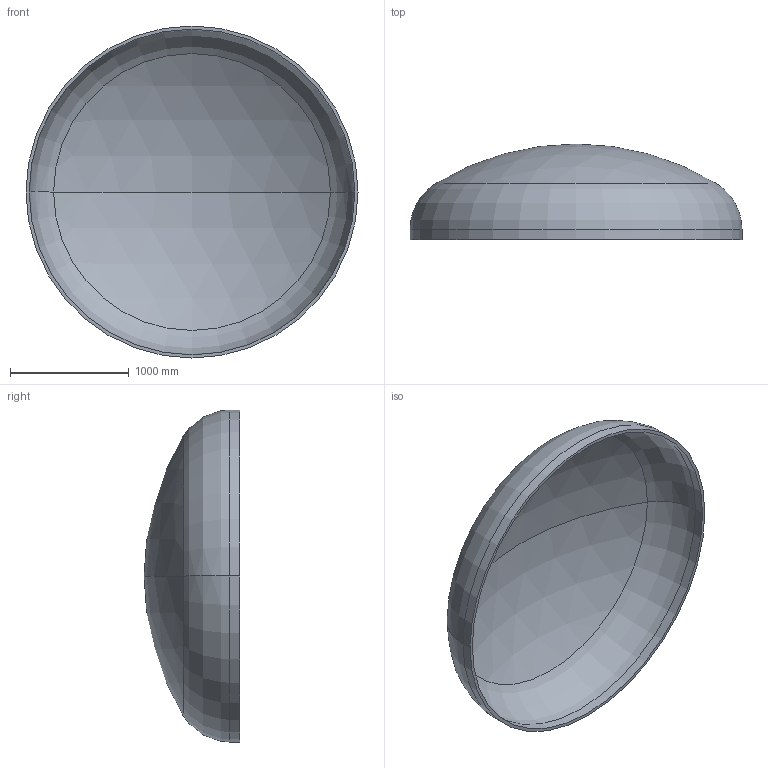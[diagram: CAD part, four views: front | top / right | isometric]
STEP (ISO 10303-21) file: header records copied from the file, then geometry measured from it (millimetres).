
FILE_DESCRIPTION (( 'STEP AP203' ), '1' );
FILE_NAME ('DIN 28013 Korbbogenform_-_Boden DIN 28013 - 2800 x 85 - I - s=27.step', '2016-07-01T16:50:44', ( '' ), ( '' ), 'SwSTEP 2.0', 'SolidWorks 2013', '' );
FILE_SCHEMA (( 'CONFIG_CONTROL_DESIGN' ));
Length unit declared in the file: millimetre
Products named in the file (1): DIN 28013 Korbbogenform_-_Boden DIN 28013 - 2800 x 85 - I - s=27
Bounding box: 2800 x 807.06 x 2800 mm (x, y, z)
Volume: 247209771.2 mm3; surface area: 18548569.1 mm2
Topology: 1 solids, 1 shells, 13 faces, 24 edges, 14 vertices
Faces by surface type: torus 4, cylinder 4, sphere 4, plane 1
Entity records: 407 total; most frequent: DIRECTION 72, CARTESIAN_POINT 52, ORIENTED_EDGE 48, AXIS2_PLACEMENT_3D 34, EDGE_CURVE 24, CIRCLE 20, VERTEX_POINT 14, EDGE_LOOP 14
